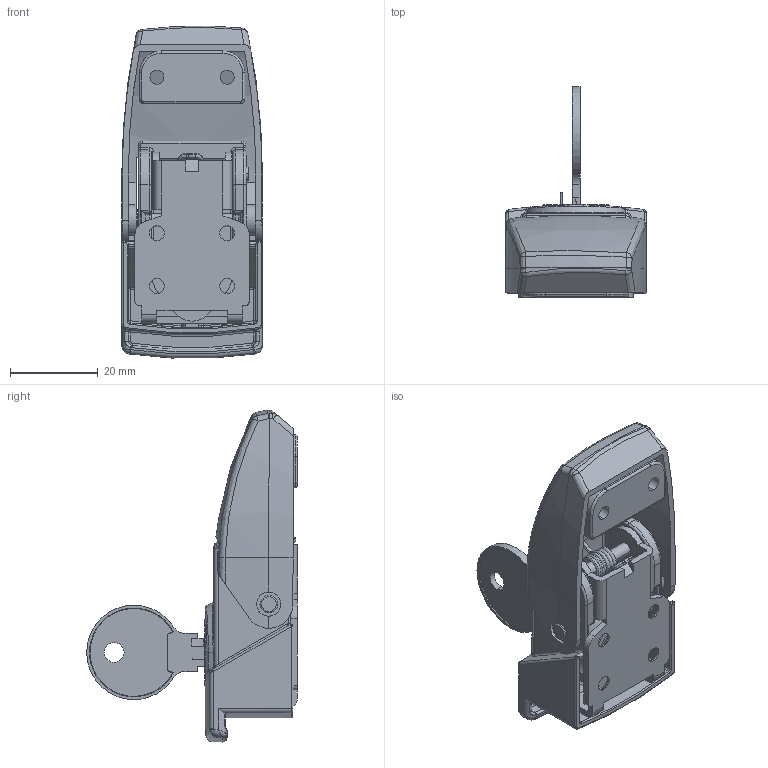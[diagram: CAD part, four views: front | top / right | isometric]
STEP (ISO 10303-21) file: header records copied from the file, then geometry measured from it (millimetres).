
FILE_DESCRIPTION((''),'2;1');
FILE_NAME('DAISUOXINTU_ASM','2020-04-14T',('Administrator'),(''),'PRO/ENGINEER BY PARAMETRIC TECHNOLOGY CORPORATION, 2009060','PRO/ENGINEER BY PARAMETRIC TECHNOLOGY CORPORATION, 2009060','');
FILE_SCHEMA(('CONFIG_CONTROL_DESIGN'));
Length unit declared in the file: millimetre
Products named in the file (20): JIZUODAIKONG; GAI; XIAOZI31; XIAOZI24; ANZHUANGBAN; NIUHUANGRAOXING; SHUAN; SUOXIN; SUOMAO; XIAOZI; FANBAN; 304-SUOPIAN-2; 304-SUOPIAN-4; 304-SUOPIAN-6; 304SUOPIANTANHUANG; NIUHUANG; K08-2; SUOXIN_ASM; SUOKOU-2; DAISUOXINTU_ASM
Assembly tree (21 placements, depth 3):
  DAISUOXINTU_ASM
    JIZUODAIKONG
    GAI
    XIAOZI31
    XIAOZI24
    ANZHUANGBAN
    NIUHUANGRAOXING
    SHUAN
    SUOXIN_ASM
      SUOXIN
      SUOMAO
      XIAOZI
      FANBAN
      304-SUOPIAN-2
      304-SUOPIAN-4
      304-SUOPIAN-6
      304SUOPIANTANHUANG  x3
      NIUHUANG
      K08-2
    SUOKOU-2
Bounding box: 32.05 x 47.95 x 75.56 mm (x, y, z)
Volume: 18260.9 mm3; surface area: 22933.2 mm2
Topology: 20 solids, 20 shells, 1038 faces, 2516 edges, 1524 vertices
Faces by surface type: plane 374, cylinder 333, bspline 204, torus 59, cone 37, sphere 31
Entity records: 49842 total; most frequent: CARTESIAN_POINT 26654, ORIENTED_EDGE 4858, DIRECTION 4646, EDGE_CURVE 2429, AXIS2_PLACEMENT_3D 1692, VERTEX_POINT 1484, VECTOR 1262, LINE 1262
